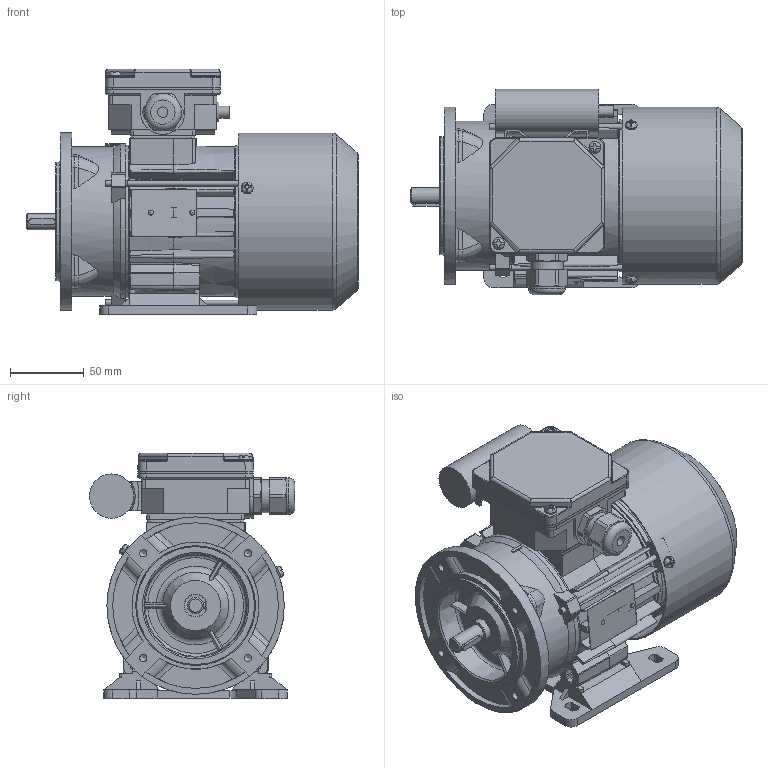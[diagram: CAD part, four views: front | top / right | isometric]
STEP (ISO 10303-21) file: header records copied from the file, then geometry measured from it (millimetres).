
FILE_DESCRIPTION( ( 'Unknown' ), '1' );
FILE_NAME( 'G:/Poczta Tk-1/STP/w.m.63/SEh63/SE(M)Lh63-C1.stp', 'Unknown', ( 'K. Szlosek' ), ( 'BESEL S.A.' ), 'PSStep 17.0.49', 'Unknown', ' ' );
FILE_SCHEMA( ( 'AUTOMOTIVE_DESIGN { 1 0 10303 214 1 1 1 1 }' ) );
Length unit declared in the file: millimetre
Products named in the file (33): Assem1; K3-9973 Kadłub ze stojanem wykończonym Sh63-C; K3-5320 Tarcza łożyskowa P Sg63; K4-2320 Uszczelka nr 1 Sh71,80; Wpust A4x4x18; K3-5321 osłona przewietrznika Sg63; K4-2820 Uszczelka nr 2 Sh71,80; K2-0860 Pokrywka skrzynki zaciskowej; Wkręt samogwintujący M4x16; K4-0898 Tulejka uszczelniająca; Kondensator zb 8-10uF; K2-1769 Przewietrznik Sg63; Wkręt samogwintujący M4x8; K1-1107 Łapa Sg63-.. w. robocza; K3-9974 wał Sh63-C standard; K3-9440 Podstawa  skrzynki zaciskowej SEhR71-D; K3-1974 Uchwyt kondensatora (mały); K1-1111 Tarcza kołnierzowa w.m. 63 IMB14_1; Dławnica M20x1,5; Łożysko 6202; Śruba ściągająca E_M4x100; Tabliczka znamionowa 32x44; Nitokołek A 2x6
Assembly tree (49 placements, depth 2):
  Assem1
    K3-9973 Kadłub ze stojanem wykończonym Sh63-C
    K3-5320 Tarcza łożyskowa P Sg63
    K4-2320 Uszczelka nr 1 Sh71,80
    Wpust A4x4x18
    K3-5321 osłona przewietrznika Sg63
    K4-2820 Uszczelka nr 2 Sh71,80
    K2-0860 Pokrywka skrzynki zaciskowej
    Wkręt samogwintujący M4x16  x2
    K4-0898 Tulejka uszczelniająca
    Kondensator zb 8-10uF
    K2-1769 Przewietrznik Sg63
    Wkręt samogwintujący M4x8  x3
    K1-1107 Łapa Sg63-.. w. robocza
    K3-9974 wał Sh63-C standard
    K3-9440 Podstawa  skrzynki zaciskowej SEhR71-D
    K3-1974 Uchwyt kondensatora (mały)
    K1-1111 Tarcza kołnierzowa w.m. 63 IMB14_1
    Dławnica M20x1,5
    Łożysko 6202  x2
    Łożysko 6202  x2
    Łożysko 6202  x2
    Łożysko 6202  x2
    Łożysko 6202  x2
    Łożysko 6202  x2
    Łożysko 6202  x2
    Łożysko 6202  x2
    Łożysko 6202  x2
    Łożysko 6202  x2
    Łożysko 6202  x2
    Śruba ściągająca E_M4x100  x3
    Tabliczka znamionowa 32x44
    Nitokołek A 2x6  x2
Bounding box: 224.5 x 138.82 x 166 mm (x, y, z)
Volume: 653812.8 mm3; surface area: 397388.4 mm2
Topology: 49 solids, 67 shells, 2108 faces, 5797 edges, 3765 vertices
Faces by surface type: plane 1060, cylinder 627, cone 130, torus 130, bspline 122, sphere 39
Full cylindrical faces by diameter (mm): 2 x2, 2.4 x2, 3 x1, 3.3 x3, 3.5 x2, 3.7 x10, 4 x8, 4.5 x4, 4.6 x1, 4.8 x4, 5 x8, 5.8 x4, 6.5 x1, 7 x4, 8 x7, 10 x2, 11 x1, 12.9 x1, 13.1 x1, 13.5 x1, 15 x4, 15.4 x2, 18.38 x1, 18.5 x1, 19 x2, 19.5 x1, 20 x2, 20.1 x1, 21.52 x4, 22.3 x1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
Entity records: 90921 total; most frequent: CARTESIAN_POINT 27750, ORIENTED_EDGE 10098, DIRECTION 9700, EDGE_CURVE 5049, AXIS2_PLACEMENT_3D 3568, VERTEX_POINT 3430, LINE 2564, VECTOR 2564
